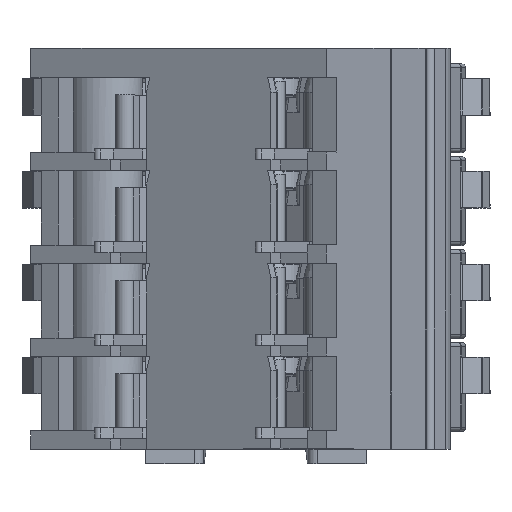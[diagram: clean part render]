
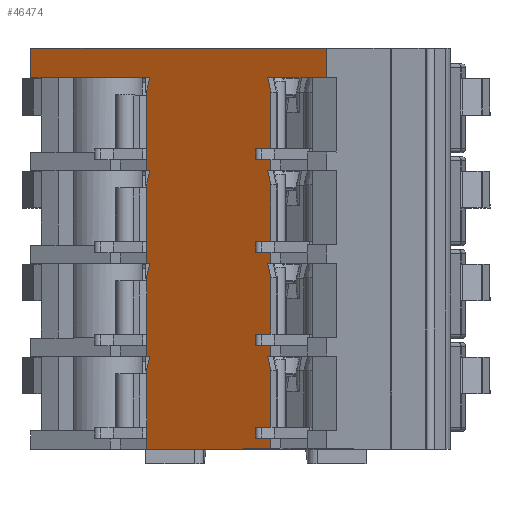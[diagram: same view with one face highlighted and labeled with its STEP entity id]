
A CAD part, top view. The second image highlights one B-rep face of the part: STEP entity #46474.
In plain terms, the highlighted planar face has unit normal (-0.5, 0, 0.866).
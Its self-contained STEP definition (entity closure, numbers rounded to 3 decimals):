
#4355=DIRECTION('',(-0.866,0.,-0.5));
#4356=VECTOR('',#4355,0.2);
#4357=CARTESIAN_POINT('',(-5.805,0.,8.725));
#4358=LINE('',#4357,#4356);
#4399=DIRECTION('',(-0.866,0.,-0.5));
#4400=VECTOR('',#4399,0.2);
#4401=CARTESIAN_POINT('',(0.82,0.,12.55));
#4402=LINE('',#4401,#4400);
#4846=DIRECTION('',(-0.866,0.,-0.5));
#4847=VECTOR('',#4846,7.5);
#4848=CARTESIAN_POINT('',(-5.805,5.08,8.725));
#4849=LINE('',#4848,#4847);
#4850=DIRECTION('',(-0.866,0.,-0.5));
#4851=VECTOR('',#4850,3.7);
#4852=CARTESIAN_POINT('',(3.851,5.08,14.3));
#4853=LINE('',#4852,#4851);
#6911=DIRECTION('',(-0.21,-0.97,-0.121));
#6912=VECTOR('',#6911,0.825);
#6913=CARTESIAN_POINT('',(-5.805,5.08,8.725));
#6914=LINE('',#6913,#6912);
#6915=DIRECTION('',(-0.866,0.,-0.5));
#6916=VECTOR('',#6915,18.65);
#6917=CARTESIAN_POINT('',(3.851,6.68,14.3));
#6918=LINE('',#6917,#6916);
#6919=DIRECTION('',(0.,1.,0.));
#6920=VECTOR('',#6919,1.6);
#6921=CARTESIAN_POINT('',(3.851,5.08,14.3));
#6922=LINE('',#6921,#6920);
#6923=DIRECTION('',(-0.21,0.97,-0.121));
#6924=VECTOR('',#6923,0.825);
#6925=CARTESIAN_POINT('',(0.82,4.28,12.55));
#6926=LINE('',#6925,#6924);
#6927=DIRECTION('',(0.,1.,0.));
#6928=VECTOR('',#6927,4.28);
#6929=CARTESIAN_POINT('',(0.82,0.,12.55));
#6930=LINE('',#6929,#6928);
#6931=DIRECTION('',(-0.21,0.97,-0.121));
#6932=VECTOR('',#6931,0.825);
#6933=CARTESIAN_POINT('',(0.82,-0.8,12.55));
#6934=LINE('',#6933,#6932);
#6935=DIRECTION('',(0.,1.,0.));
#6936=VECTOR('',#6935,4.28);
#6937=CARTESIAN_POINT('',(0.82,-5.08,12.55));
#6938=LINE('',#6937,#6936);
#6939=DIRECTION('',(-0.21,0.97,-0.121));
#6940=VECTOR('',#6939,0.825);
#6941=CARTESIAN_POINT('',(0.82,-5.88,12.55));
#6942=LINE('',#6941,#6940);
#6943=DIRECTION('',(0.,1.,0.));
#6944=VECTOR('',#6943,4.28);
#6945=CARTESIAN_POINT('',(0.82,-10.16,12.55));
#6946=LINE('',#6945,#6944);
#6947=DIRECTION('',(-0.21,0.97,-0.121));
#6948=VECTOR('',#6947,0.825);
#6949=CARTESIAN_POINT('',(0.82,-10.96,12.55));
#6950=LINE('',#6949,#6948);
#6951=DIRECTION('',(0.,1.,0.));
#6952=VECTOR('',#6951,4.28);
#6953=CARTESIAN_POINT('',(0.82,-15.24,12.55));
#6954=LINE('',#6953,#6952);
#6955=DIRECTION('',(-0.21,-0.97,-0.121));
#6956=VECTOR('',#6955,0.825);
#6957=CARTESIAN_POINT('',(-5.805,-10.16,8.725));
#6958=LINE('',#6957,#6956);
#6959=DIRECTION('',(-0.21,-0.97,-0.121));
#6960=VECTOR('',#6959,0.825);
#6961=CARTESIAN_POINT('',(-5.805,-5.08,8.725));
#6962=LINE('',#6961,#6960);
#6963=DIRECTION('',(-0.21,-0.97,-0.121));
#6964=VECTOR('',#6963,0.825);
#6965=CARTESIAN_POINT('',(-5.805,0.,8.725));
#6966=LINE('',#6965,#6964);
#6975=DIRECTION('',(0.,1.,0.));
#6976=VECTOR('',#6975,4.28);
#6977=CARTESIAN_POINT('',(-5.978,0.,8.625));
#6978=LINE('',#6977,#6976);
#10978=DIRECTION('',(0.,1.,0.));
#10979=VECTOR('',#10978,1.6);
#10980=CARTESIAN_POINT('',(-12.3,5.08,4.975));
#10981=LINE('',#10980,#10979);
#11350=DIRECTION('',(-0.866,0.,-0.5));
#11351=VECTOR('',#11350,7.85);
#11352=CARTESIAN_POINT('',(0.82,-15.24,12.55));
#11353=LINE('',#11352,#11351);
#13218=DIRECTION('',(-0.866,0.,-0.5));
#13219=VECTOR('',#13218,0.2);
#13220=CARTESIAN_POINT('',(-5.805,-10.16,8.725));
#13221=LINE('',#13220,#13219);
#13262=DIRECTION('',(-0.866,0.,-0.5));
#13263=VECTOR('',#13262,0.2);
#13264=CARTESIAN_POINT('',(0.82,-10.16,12.55));
#13265=LINE('',#13264,#13263);
#17152=DIRECTION('',(0.,1.,0.));
#17153=VECTOR('',#17152,4.28);
#17154=CARTESIAN_POINT('',(-5.978,-15.24,8.625));
#17155=LINE('',#17154,#17153);
#18963=DIRECTION('',(-0.866,0.,-0.5));
#18964=VECTOR('',#18963,0.2);
#18965=CARTESIAN_POINT('',(-5.805,-5.08,8.725));
#18966=LINE('',#18965,#18964);
#19007=DIRECTION('',(-0.866,0.,-0.5));
#19008=VECTOR('',#19007,0.2);
#19009=CARTESIAN_POINT('',(0.82,-5.08,12.55));
#19010=LINE('',#19009,#19008);
#22032=DIRECTION('',(0.,1.,0.));
#22033=VECTOR('',#22032,4.28);
#22034=CARTESIAN_POINT('',(-5.978,-10.16,8.625));
#22035=LINE('',#22034,#22033);
#24936=DIRECTION('',(0.,1.,0.));
#24937=VECTOR('',#24936,4.28);
#24938=CARTESIAN_POINT('',(-5.978,-5.08,8.625));
#24939=LINE('',#24938,#24937);
#28808=CARTESIAN_POINT('',(-5.978,0.,8.625));
#28809=VERTEX_POINT('',#28808);
#28811=CARTESIAN_POINT('',(0.82,0.,12.55));
#28813=VERTEX_POINT('',#28811);
#28925=CARTESIAN_POINT('',(0.82,4.28,12.55));
#28927=VERTEX_POINT('',#28925);
#28931=CARTESIAN_POINT('',(-5.978,4.28,8.625));
#28932=VERTEX_POINT('',#28931);
#30410=CARTESIAN_POINT('',(-5.978,-5.08,8.625));
#30411=VERTEX_POINT('',#30410);
#30413=CARTESIAN_POINT('',(0.82,-5.08,12.55));
#30415=VERTEX_POINT('',#30413);
#30515=CARTESIAN_POINT('',(0.82,-0.8,12.55));
#30517=VERTEX_POINT('',#30515);
#30521=CARTESIAN_POINT('',(-5.978,-0.8,8.625));
#30522=VERTEX_POINT('',#30521);
#31820=CARTESIAN_POINT('',(-5.978,-10.16,8.625));
#31821=VERTEX_POINT('',#31820);
#31823=CARTESIAN_POINT('',(0.82,-10.16,12.55));
#31825=VERTEX_POINT('',#31823);
#31925=CARTESIAN_POINT('',(0.82,-5.88,12.55));
#31927=VERTEX_POINT('',#31925);
#31931=CARTESIAN_POINT('',(-5.978,-5.88,8.625));
#31932=VERTEX_POINT('',#31931);
#33252=CARTESIAN_POINT('',(-5.978,-15.24,8.625));
#33253=VERTEX_POINT('',#33252);
#33254=CARTESIAN_POINT('',(0.82,-15.24,12.55));
#33255=VERTEX_POINT('',#33254);
#33411=CARTESIAN_POINT('',(0.82,-10.96,12.55));
#33413=VERTEX_POINT('',#33411);
#33417=CARTESIAN_POINT('',(-5.978,-10.96,8.625));
#33418=VERTEX_POINT('',#33417);
#34876=CARTESIAN_POINT('',(3.851,6.68,14.3));
#34877=VERTEX_POINT('',#34876);
#34878=CARTESIAN_POINT('',(-12.3,6.68,4.975));
#34879=VERTEX_POINT('',#34878);
#34988=CARTESIAN_POINT('',(3.851,5.08,14.3));
#34989=VERTEX_POINT('',#34988);
#34990=CARTESIAN_POINT('',(-12.3,5.08,4.975));
#34991=VERTEX_POINT('',#34990);
#35518=CARTESIAN_POINT('',(0.647,0.,12.45));
#35520=VERTEX_POINT('',#35518);
#35523=CARTESIAN_POINT('',(-5.805,0.,8.725));
#35525=VERTEX_POINT('',#35523);
#35912=CARTESIAN_POINT('',(0.647,-5.08,12.45));
#35914=VERTEX_POINT('',#35912);
#35917=CARTESIAN_POINT('',(-5.805,-5.08,8.725));
#35919=VERTEX_POINT('',#35917);
#36306=CARTESIAN_POINT('',(0.647,-10.16,12.45));
#36308=VERTEX_POINT('',#36306);
#36311=CARTESIAN_POINT('',(-5.805,-10.16,8.725));
#36313=VERTEX_POINT('',#36311);
#36710=CARTESIAN_POINT('',(0.647,5.08,12.45));
#36712=VERTEX_POINT('',#36710);
#36715=CARTESIAN_POINT('',(-5.805,5.08,8.725));
#36717=VERTEX_POINT('',#36715);
#46417=CARTESIAN_POINT('',(-12.3,5.08,4.975));
#46418=DIRECTION('',(-0.5,0.,0.866));
#46419=DIRECTION('',(0.866,0.,0.5));
#46420=AXIS2_PLACEMENT_3D('',#46417,#46418,#46419);
#46421=PLANE('',#46420);
#46423=ORIENTED_EDGE('',*,*,#46422,.F.);
#46424=ORIENTED_EDGE('',*,*,#43414,.T.);
#46426=ORIENTED_EDGE('',*,*,#46425,.T.);
#46427=ORIENTED_EDGE('',*,*,#43629,.F.);
#46428=ORIENTED_EDGE('',*,*,#46384,.F.);
#46429=ORIENTED_EDGE('',*,*,#43434,.T.);
#46431=ORIENTED_EDGE('',*,*,#46430,.F.);
#46433=ORIENTED_EDGE('',*,*,#46432,.F.);
#46434=ORIENTED_EDGE('',*,*,#42768,.T.);
#46436=ORIENTED_EDGE('',*,*,#46435,.F.);
#46438=ORIENTED_EDGE('',*,*,#46437,.F.);
#46440=ORIENTED_EDGE('',*,*,#46439,.T.);
#46442=ORIENTED_EDGE('',*,*,#46441,.F.);
#46444=ORIENTED_EDGE('',*,*,#46443,.F.);
#46446=ORIENTED_EDGE('',*,*,#46445,.T.);
#46448=ORIENTED_EDGE('',*,*,#46447,.F.);
#46450=ORIENTED_EDGE('',*,*,#46449,.F.);
#46452=ORIENTED_EDGE('',*,*,#46451,.T.);
#46454=ORIENTED_EDGE('',*,*,#46453,.T.);
#46456=ORIENTED_EDGE('',*,*,#46455,.F.);
#46458=ORIENTED_EDGE('',*,*,#46457,.T.);
#46460=ORIENTED_EDGE('',*,*,#46459,.T.);
#46462=ORIENTED_EDGE('',*,*,#46461,.F.);
#46464=ORIENTED_EDGE('',*,*,#46463,.T.);
#46466=ORIENTED_EDGE('',*,*,#46465,.T.);
#46468=ORIENTED_EDGE('',*,*,#46467,.F.);
#46469=ORIENTED_EDGE('',*,*,#42748,.T.);
#46471=ORIENTED_EDGE('',*,*,#46470,.T.);
#46472=EDGE_LOOP('',(#46423,#46424,#46426,#46427,#46428,#46429,#46431,#46433,
#46434,#46436,#46438,#46440,#46442,#46444,#46446,#46448,#46450,#46452,#46454,
#46456,#46458,#46460,#46462,#46464,#46466,#46468,#46469,#46471));
#46473=FACE_OUTER_BOUND('',#46472,.F.);
#46474=ADVANCED_FACE('',(#46473),#46421,.T.);
#42748=EDGE_CURVE('',#35525,#28809,#4358,.T.);
#42768=EDGE_CURVE('',#28813,#35520,#4402,.T.);
#43414=EDGE_CURVE('',#36717,#34991,#4849,.T.);
#43434=EDGE_CURVE('',#34989,#36712,#4853,.T.);
#43629=EDGE_CURVE('',#34877,#34879,#6918,.T.);
#46384=EDGE_CURVE('',#34989,#34877,#6922,.T.);
#46422=EDGE_CURVE('',#36717,#28932,#6914,.T.);
#46425=EDGE_CURVE('',#34991,#34879,#10981,.T.);
#46430=EDGE_CURVE('',#28927,#36712,#6926,.T.);
#46432=EDGE_CURVE('',#28813,#28927,#6930,.T.);
#46435=EDGE_CURVE('',#30517,#35520,#6934,.T.);
#46437=EDGE_CURVE('',#30415,#30517,#6938,.T.);
#46439=EDGE_CURVE('',#30415,#35914,#19010,.T.);
#46441=EDGE_CURVE('',#31927,#35914,#6942,.T.);
#46443=EDGE_CURVE('',#31825,#31927,#6946,.T.);
#46445=EDGE_CURVE('',#31825,#36308,#13265,.T.);
#46447=EDGE_CURVE('',#33413,#36308,#6950,.T.);
#46449=EDGE_CURVE('',#33255,#33413,#6954,.T.);
#46451=EDGE_CURVE('',#33255,#33253,#11353,.T.);
#46453=EDGE_CURVE('',#33253,#33418,#17155,.T.);
#46455=EDGE_CURVE('',#36313,#33418,#6958,.T.);
#46457=EDGE_CURVE('',#36313,#31821,#13221,.T.);
#46459=EDGE_CURVE('',#31821,#31932,#22035,.T.);
#46461=EDGE_CURVE('',#35919,#31932,#6962,.T.);
#46463=EDGE_CURVE('',#35919,#30411,#18966,.T.);
#46465=EDGE_CURVE('',#30411,#30522,#24939,.T.);
#46467=EDGE_CURVE('',#35525,#30522,#6966,.T.);
#46470=EDGE_CURVE('',#28809,#28932,#6978,.T.);
